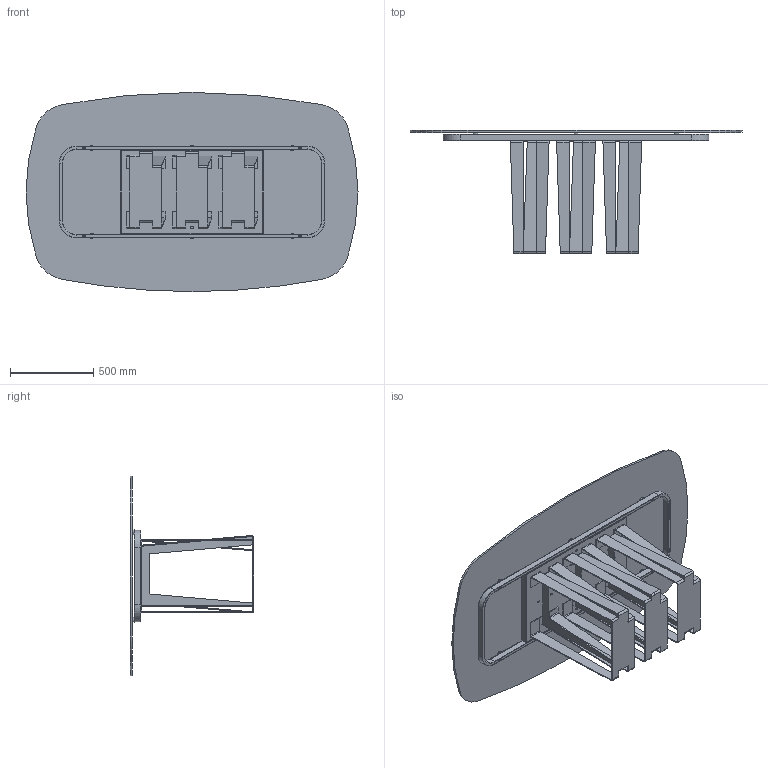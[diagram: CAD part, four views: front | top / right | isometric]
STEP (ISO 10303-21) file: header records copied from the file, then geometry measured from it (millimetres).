
FILE_DESCRIPTION (( 'STEP AP203' ), '1' );
FILE_NAME ('NA41G.STEP', '2024-08-07T14:37:30', ( '' ), ( '' ), 'SwSTEP 2.0', 'SolidWorks 2022', '' );
FILE_SCHEMA (( 'CONFIG_CONTROL_DESIGN' ));
Length unit declared in the file: millimetre
Products named in the file (8): M8xXXmm_M8x20mm; TTAV01_02-01-VASSOIO IRRIGIDIMENTO TELAIO UNIVERSALE; C4XCRXX-00-Piani Sagomati in Cristallo_2000x1200; NAB000000-00-NARCISO BASE SING. GREZZA; TTAV01-01-TELAIO UNIVERSALE X TAVOLI 180 240cm; NA41G; 434070-00-PIEDINO TPV GOMMA NERO D. 30x8max18; TTAV01_01-01-TELAIO UNIVERSALE X TAVOLI 180 240cm_Default<A macchina>
Assembly tree (19 placements, depth 3):
  NA41G
    C4XCRXX-00-Piani Sagomati in Cristallo_2000x1200
    434070-00-PIEDINO TPV GOMMA NERO D. 30x8max18  x6
    TTAV01-01-TELAIO UNIVERSALE X TAVOLI 180 240cm
      TTAV01_01-01-TELAIO UNIVERSALE X TAVOLI 180 240cm_Default<A macchina>
      TTAV01_02-01-VASSOIO IRRIGIDIMENTO TELAIO UNIVERSALE
    NAB000000-00-NARCISO BASE SING. GREZZA  x3
    M8xXXmm_M8x20mm  x6
Bounding box: 2000 x 742 x 1200 mm (x, y, z)
Volume: 37622571.6 mm3; surface area: 9316791.2 mm2
Topology: 34 solids, 34 shells, 1016 faces, 2470 edges, 1516 vertices
Faces by surface type: plane 545, cylinder 283, torus 80, cone 72, bspline 36
Entity records: 17523 total; most frequent: CARTESIAN_POINT 3165, DIRECTION 2823, ORIENTED_EDGE 2700, EDGE_CURVE 1350, AXIS2_PLACEMENT_3D 994, VERTEX_POINT 860, VECTOR 835, LINE 835
